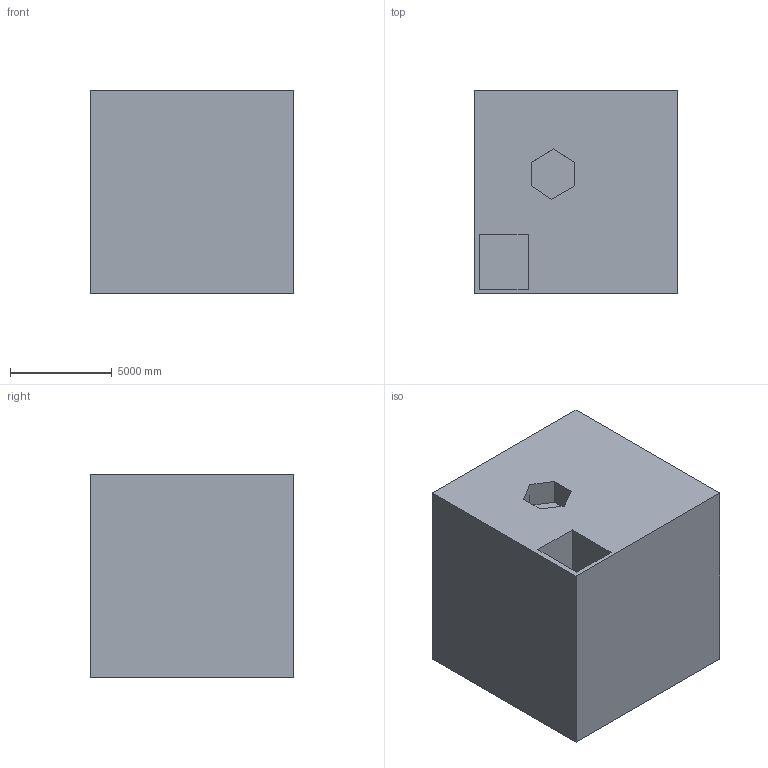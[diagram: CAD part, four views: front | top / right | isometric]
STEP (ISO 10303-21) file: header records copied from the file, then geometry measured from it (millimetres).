
FILE_DESCRIPTION (( 'STEP AP203' ), '1' );
FILE_NAME ('113.STEP', '2022-09-06T13:18:00', ( 'user' ), ( '' ), 'SwSTEP 2.0', 'SolidWorks 2021', '' );
FILE_SCHEMA (( 'CONFIG_CONTROL_DESIGN' ));
Length unit declared in the file: centimetre
Products named in the file (1): 113
Bounding box: 10000 x 10000 x 10000 mm (x, y, z)
Volume: 964998816234 mm3; surface area: 656689630.3 mm2
Topology: 1 solids, 1 shells, 18 faces, 42 edges, 28 vertices
Faces by surface type: plane 18
Entity records: 583 total; most frequent: CARTESIAN_POINT 89, ORIENTED_EDGE 84, DIRECTION 80, VECTOR 42, EDGE_CURVE 42, LINE 42, VERTEX_POINT 28, EDGE_LOOP 20
